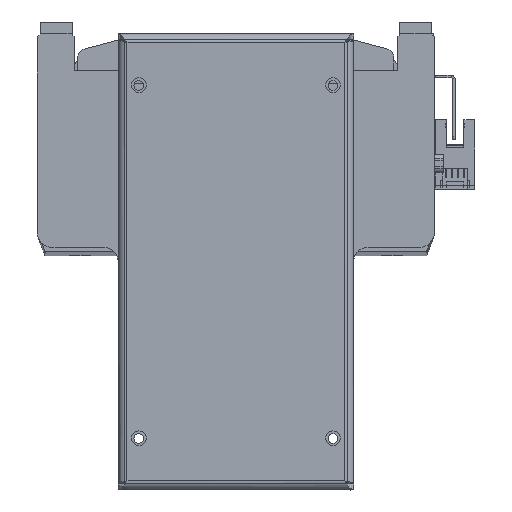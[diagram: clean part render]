
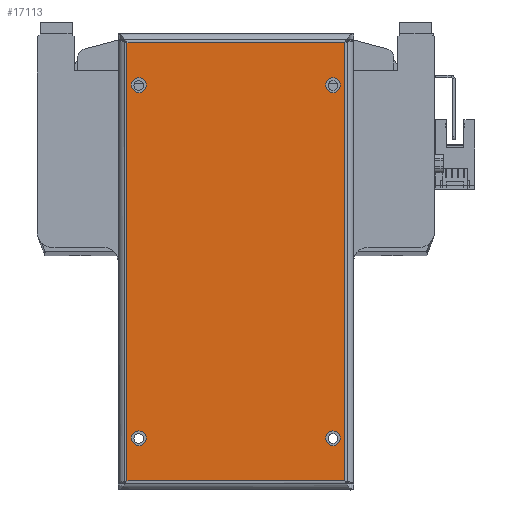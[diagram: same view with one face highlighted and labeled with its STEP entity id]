
A CAD part, top view. The second image highlights one B-rep face of the part: STEP entity #17113.
In plain terms, the highlighted planar face has unit normal (0, 0, 1) as drawn and (0, 0, -1) by its records, which use the part's own axes.
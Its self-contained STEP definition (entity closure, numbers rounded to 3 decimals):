
#50 = LINE ( 'NONE', #21645, #21195 ) ;
#702 = AXIS2_PLACEMENT_3D ( 'NONE', #10718, #26508, #15960 ) ;
#1739 = FACE_BOUND ( 'NONE', #3419, .T. ) ;
#2166 = VERTEX_POINT ( 'NONE', #19201 ) ;
#2496 = DIRECTION ( 'NONE',  ( 0., -1., 0. ) ) ;
#2994 = VERTEX_POINT ( 'NONE', #32940 ) ;
#3401 = EDGE_CURVE ( 'NONE', #20271, #16463, #33068, .T. ) ;
#3419 = EDGE_LOOP ( 'NONE', ( #12508, #31702 ) ) ;
#3687 = DIRECTION ( 'NONE',  ( 0., -1., 0. ) ) ;
#3866 = DIRECTION ( 'NONE',  ( 0., -1., 0. ) ) ;
#4097 = LINE ( 'NONE', #17434, #15946 ) ;
#4424 = DIRECTION ( 'NONE',  ( 0., 0., -1. ) ) ;
#4604 = DIRECTION ( 'NONE',  ( 0., 1., 0. ) ) ;
#5085 = ORIENTED_EDGE ( 'NONE', *, *, #12929, .T. ) ;
#5233 = EDGE_LOOP ( 'NONE', ( #5085, #32211, #17002, #30523 ) ) ;
#5285 = AXIS2_PLACEMENT_3D ( 'NONE', #34686, #32060, #13485 ) ;
#5332 = DIRECTION ( 'NONE',  ( 1., 0., 0. ) ) ;
#5609 = CIRCLE ( 'NONE', #21865, 2.5 ) ;
#6015 = CARTESIAN_POINT ( 'NONE',  ( 2926.091, 298.384, -52. ) ) ;
#6064 = LINE ( 'NONE', #24172, #24210 ) ;
#6278 = DIRECTION ( 'NONE',  ( 0., -1., 0. ) ) ;
#6313 = DIRECTION ( 'NONE',  ( 0., 0., -1. ) ) ;
#6989 = CIRCLE ( 'NONE', #12045, 2.5 ) ;
#7032 = CARTESIAN_POINT ( 'NONE',  ( 2996.091, 283.884, -52. ) ) ;
#7537 = ORIENTED_EDGE ( 'NONE', *, *, #31044, .F. ) ;
#7795 = EDGE_LOOP ( 'NONE', ( #32608, #9821 ) ) ;
#7832 = VERTEX_POINT ( 'NONE', #24023 ) ;
#7864 = AXIS2_PLACEMENT_3D ( 'NONE', #28443, #9852, #3687 ) ;
#8294 = CIRCLE ( 'NONE', #27920, 2.5 ) ;
#8306 = VERTEX_POINT ( 'NONE', #14605 ) ;
#8660 = EDGE_CURVE ( 'NONE', #2994, #16805, #6989, .T. ) ;
#8694 = DIRECTION ( 'NONE',  ( -1., 0., 0. ) ) ;
#8961 = CARTESIAN_POINT ( 'NONE',  ( 2930.091, 163.884, -52. ) ) ;
#9004 = AXIS2_PLACEMENT_3D ( 'NONE', #27363, #21727, #6278 ) ;
#9276 = ORIENTED_EDGE ( 'NONE', *, *, #18564, .F. ) ;
#9503 = PLANE ( 'NONE',  #7864 ) ;
#9821 = ORIENTED_EDGE ( 'NONE', *, *, #21804, .F. ) ;
#9852 = DIRECTION ( 'NONE',  ( 0., 0., -1. ) ) ;
#10251 = CARTESIAN_POINT ( 'NONE',  ( 2996.091, 283.884, -52. ) ) ;
#10718 = CARTESIAN_POINT ( 'NONE',  ( 2996.091, 163.884, -52. ) ) ;
#11610 = DIRECTION ( 'NONE',  ( 0., 0., -1. ) ) ;
#12045 = AXIS2_PLACEMENT_3D ( 'NONE', #8961, #11610, #27906 ) ;
#12192 = VERTEX_POINT ( 'NONE', #15124 ) ;
#12508 = ORIENTED_EDGE ( 'NONE', *, *, #14524, .F. ) ;
#12774 = EDGE_LOOP ( 'NONE', ( #29621, #19913 ) ) ;
#12929 = EDGE_CURVE ( 'NONE', #17838, #32968, #50, .T. ) ;
#13485 = DIRECTION ( 'NONE',  ( 0., -1., 0. ) ) ;
#14524 = EDGE_CURVE ( 'NONE', #2166, #8306, #5609, .T. ) ;
#14605 = CARTESIAN_POINT ( 'NONE',  ( 2996.091, 286.384, -52. ) ) ;
#14841 = CIRCLE ( 'NONE', #5285, 2.5 ) ;
#15124 = CARTESIAN_POINT ( 'NONE',  ( 2996.091, 166.384, -52. ) ) ;
#15157 = CIRCLE ( 'NONE', #9004, 2.5 ) ;
#15946 = VECTOR ( 'NONE', #4604, 1000. ) ;
#15960 = DIRECTION ( 'NONE',  ( 0., -1., 0. ) ) ;
#16463 = VERTEX_POINT ( 'NONE', #22015 ) ;
#16805 = VERTEX_POINT ( 'NONE', #20049 ) ;
#17002 = ORIENTED_EDGE ( 'NONE', *, *, #3401, .T. ) ;
#17113 = ADVANCED_FACE ( 'NONE', ( #20349, #22818, #1739, #33514, #28270 ), #9503, .T. ) ;
#17160 = EDGE_LOOP ( 'NONE', ( #9276, #7537 ) ) ;
#17434 = CARTESIAN_POINT ( 'NONE',  ( 2926.091, 148.738, -52. ) ) ;
#17838 = VERTEX_POINT ( 'NONE', #6015 ) ;
#17935 = VERTEX_POINT ( 'NONE', #17942 ) ;
#17942 = CARTESIAN_POINT ( 'NONE',  ( 2930.091, 286.384, -52. ) ) ;
#18564 = EDGE_CURVE ( 'NONE', #7832, #17935, #15157, .T. ) ;
#19201 = CARTESIAN_POINT ( 'NONE',  ( 2996.091, 281.384, -52. ) ) ;
#19550 = CARTESIAN_POINT ( 'NONE',  ( 3000.737, 149.384, -52. ) ) ;
#19803 = EDGE_CURVE ( 'NONE', #32968, #20271, #6064, .T. ) ;
#19913 = ORIENTED_EDGE ( 'NONE', *, *, #30654, .F. ) ;
#20049 = CARTESIAN_POINT ( 'NONE',  ( 2930.091, 166.384, -52. ) ) ;
#20231 = DIRECTION ( 'NONE',  ( 0., -1., 0. ) ) ;
#20271 = VERTEX_POINT ( 'NONE', #22661 ) ;
#20349 = FACE_BOUND ( 'NONE', #17160, .T. ) ;
#21195 = VECTOR ( 'NONE', #5332, 1000. ) ;
#21606 = DIRECTION ( 'NONE',  ( 0., 0., -1. ) ) ;
#21645 = CARTESIAN_POINT ( 'NONE',  ( 2925.444, 298.384, -52. ) ) ;
#21727 = DIRECTION ( 'NONE',  ( 0., 0., -1. ) ) ;
#21804 = EDGE_CURVE ( 'NONE', #12192, #31103, #14841, .T. ) ;
#21865 = AXIS2_PLACEMENT_3D ( 'NONE', #10251, #21606, #2496 ) ;
#22015 = CARTESIAN_POINT ( 'NONE',  ( 2926.091, 149.384, -52. ) ) ;
#22661 = CARTESIAN_POINT ( 'NONE',  ( 3000.091, 149.384, -52. ) ) ;
#22818 = FACE_BOUND ( 'NONE', #12774, .T. ) ;
#23109 = EDGE_CURVE ( 'NONE', #16463, #17838, #4097, .T. ) ;
#23382 = CARTESIAN_POINT ( 'NONE',  ( 2930.091, 163.884, -52. ) ) ;
#24023 = CARTESIAN_POINT ( 'NONE',  ( 2930.091, 281.384, -52. ) ) ;
#24172 = CARTESIAN_POINT ( 'NONE',  ( 3000.091, 299.031, -52. ) ) ;
#24210 = VECTOR ( 'NONE', #32391, 1000. ) ;
#24956 = DIRECTION ( 'NONE',  ( 0., 0., -1. ) ) ;
#25970 = CIRCLE ( 'NONE', #702, 2.5 ) ;
#26508 = DIRECTION ( 'NONE',  ( 0., 0., -1. ) ) ;
#27363 = CARTESIAN_POINT ( 'NONE',  ( 2930.091, 283.884, -52. ) ) ;
#27567 = CARTESIAN_POINT ( 'NONE',  ( 2930.091, 283.884, -52. ) ) ;
#27906 = DIRECTION ( 'NONE',  ( 0., -1., 0. ) ) ;
#27920 = AXIS2_PLACEMENT_3D ( 'NONE', #27567, #6313, #3866 ) ;
#28270 = FACE_OUTER_BOUND ( 'NONE', #5233, .T. ) ;
#28292 = VECTOR ( 'NONE', #8694, 1000. ) ;
#28443 = CARTESIAN_POINT ( 'NONE',  ( 2963.091, 223.884, -52. ) ) ;
#28544 = CARTESIAN_POINT ( 'NONE',  ( 3000.091, 298.384, -52. ) ) ;
#29555 = EDGE_CURVE ( 'NONE', #8306, #2166, #34610, .T. ) ;
#29621 = ORIENTED_EDGE ( 'NONE', *, *, #8660, .F. ) ;
#30523 = ORIENTED_EDGE ( 'NONE', *, *, #23109, .T. ) ;
#30654 = EDGE_CURVE ( 'NONE', #16805, #2994, #31782, .T. ) ;
#30897 = DIRECTION ( 'NONE',  ( 0., -1., 0. ) ) ;
#31044 = EDGE_CURVE ( 'NONE', #17935, #7832, #8294, .T. ) ;
#31103 = VERTEX_POINT ( 'NONE', #31400 ) ;
#31400 = CARTESIAN_POINT ( 'NONE',  ( 2996.091, 161.384, -52. ) ) ;
#31702 = ORIENTED_EDGE ( 'NONE', *, *, #29555, .F. ) ;
#31782 = CIRCLE ( 'NONE', #34047, 2.5 ) ;
#32060 = DIRECTION ( 'NONE',  ( 0., 0., -1. ) ) ;
#32211 = ORIENTED_EDGE ( 'NONE', *, *, #19803, .T. ) ;
#32391 = DIRECTION ( 'NONE',  ( 0., -1., 0. ) ) ;
#32608 = ORIENTED_EDGE ( 'NONE', *, *, #34381, .F. ) ;
#32940 = CARTESIAN_POINT ( 'NONE',  ( 2930.091, 161.384, -52. ) ) ;
#32968 = VERTEX_POINT ( 'NONE', #28544 ) ;
#33068 = LINE ( 'NONE', #19550, #28292 ) ;
#33514 = FACE_BOUND ( 'NONE', #7795, .T. ) ;
#34047 = AXIS2_PLACEMENT_3D ( 'NONE', #23382, #4424, #20231 ) ;
#34050 = AXIS2_PLACEMENT_3D ( 'NONE', #7032, #24956, #30897 ) ;
#34381 = EDGE_CURVE ( 'NONE', #31103, #12192, #25970, .T. ) ;
#34610 = CIRCLE ( 'NONE', #34050, 2.5 ) ;
#34686 = CARTESIAN_POINT ( 'NONE',  ( 2996.091, 163.884, -52. ) ) ;
